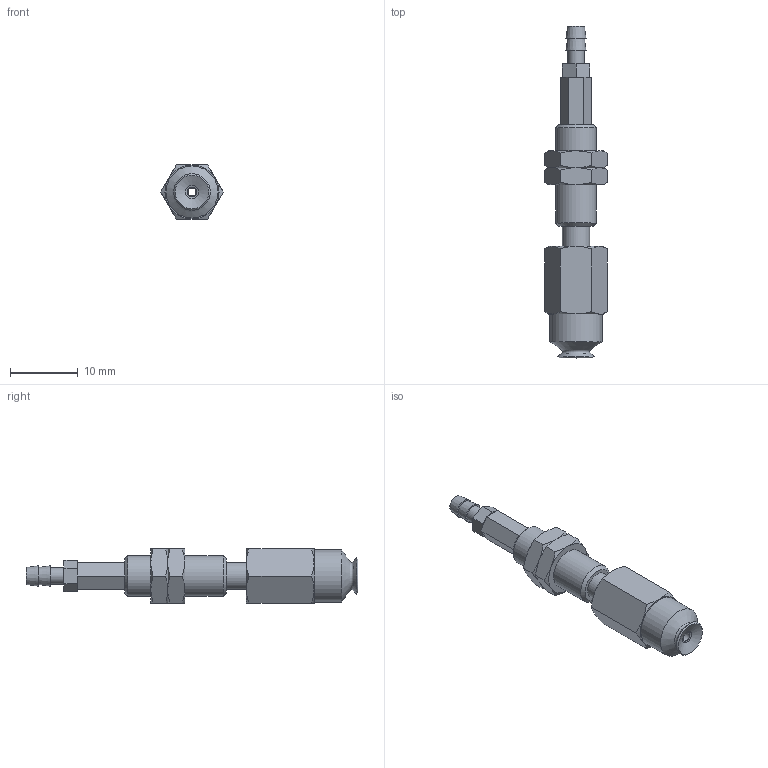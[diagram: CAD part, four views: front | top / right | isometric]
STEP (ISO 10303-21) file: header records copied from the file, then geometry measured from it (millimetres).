
FILE_DESCRIPTION(('STEP AP203'),'1');
FILE_NAME('-T.stp','2025-08-27T05:31:08',(' '),(' '),'Spatial InterOp 3D',' ',' ');
FILE_SCHEMA(('CONFIG_CONTROL_DESIGN'));
Length unit declared in the file: millimetre
Products named in the file (7): BNABPFTS-5A-3-※-T; ADAPTER; NAPCTS-7-3-MBODY; Nut-5A-3-s; NAPFTS-5A-3-FBODY; BPFG-5A-※; T (2)
Assembly tree (7 placements, depth 2):
  BNABPFTS-5A-3-※-T
    ADAPTER
    NAPCTS-7-3-MBODY
    Nut-5A-3-s  x2
    NAPFTS-5A-3-FBODY
    BPFG-5A-※
    T (2)
Bounding box: 9.24 x 49.1 x 8 mm (x, y, z)
Volume: 1514.8 mm3; surface area: 2283.7 mm2
Topology: 7 solids, 7 shells, 134 faces, 278 edges, 166 vertices
Faces by surface type: plane 58, cone 51, cylinder 17, torus 7, bspline 1
Full cylindrical faces by diameter (mm): 1.2 x3, 1.4 x1, 2.459 x1, 2.5 x1, 3 x1, 4 x4, 5.188 x2, 6 x3, 7.7 x1
Entity records: 3223 total; most frequent: CARTESIAN_POINT 728, DIRECTION 456, ORIENTED_EDGE 372, AXIS2_PLACEMENT_3D 201, EDGE_CURVE 186, EDGE_LOOP 167, FACE_OUTER_BOUND 135, VERTEX_POINT 131
